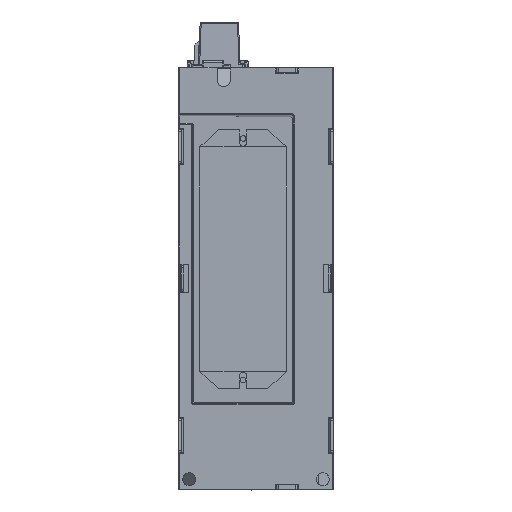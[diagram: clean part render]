
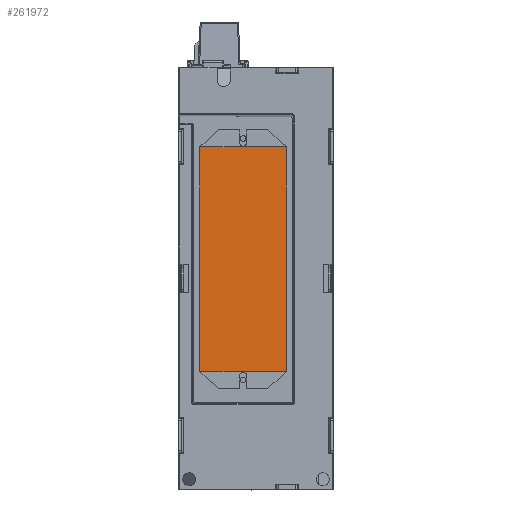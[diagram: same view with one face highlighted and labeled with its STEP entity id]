
A CAD part, front view. The second image highlights one B-rep face of the part: STEP entity #261972.
In plain terms, the highlighted planar face has unit normal (0, -1, 0) as drawn and (0, 1, 0) by its records, which use the part's own axes.
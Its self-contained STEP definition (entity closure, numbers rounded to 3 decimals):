
#261570=DIRECTION('',(0.,0.,1.));
#261571=VECTOR('',#261570,40.);
#261572=CARTESIAN_POINT('',(-52.1,7.6,-20.));
#261573=LINE('',#261572,#261571);
#261577=DIRECTION('',(-1.,0.,0.));
#261578=VECTOR('',#261577,104.2);
#261579=CARTESIAN_POINT('',(52.1,7.6,-20.));
#261580=LINE('',#261579,#261578);
#261584=DIRECTION('',(0.,0.,-1.));
#261585=VECTOR('',#261584,40.);
#261586=CARTESIAN_POINT('',(52.1,7.6,20.));
#261587=LINE('',#261586,#261585);
#261591=DIRECTION('',(1.,0.,0.));
#261592=VECTOR('',#261591,104.2);
#261593=CARTESIAN_POINT('',(-52.1,7.6,20.));
#261594=LINE('',#261593,#261592);
#261647=CARTESIAN_POINT('',(-52.1,7.6,-20.));
#261648=CARTESIAN_POINT('',(-52.1,7.6,20.));
#261649=VERTEX_POINT('',#261647);
#261650=VERTEX_POINT('',#261648);
#261651=CARTESIAN_POINT('',(52.1,7.6,20.));
#261652=VERTEX_POINT('',#261651);
#261653=CARTESIAN_POINT('',(52.1,7.6,-20.));
#261654=VERTEX_POINT('',#261653);
#261959=CARTESIAN_POINT('',(0.,7.6,0.));
#261960=DIRECTION('',(0.,1.,0.));
#261961=DIRECTION('',(1.,0.,0.));
#261962=AXIS2_PLACEMENT_3D('',#261959,#261960,#261961);
#261963=PLANE('',#261962);
#261965=ORIENTED_EDGE('',*,*,#261964,.F.);
#261967=ORIENTED_EDGE('',*,*,#261966,.F.);
#261968=ORIENTED_EDGE('',*,*,#261952,.F.);
#261969=ORIENTED_EDGE('',*,*,#261840,.F.);
#261970=EDGE_LOOP('',(#261965,#261967,#261968,#261969));
#261971=FACE_OUTER_BOUND('',#261970,.F.);
#261840=EDGE_CURVE('',#261650,#261652,#261594,.T.);
#261952=EDGE_CURVE('',#261652,#261654,#261587,.T.);
#261964=EDGE_CURVE('',#261649,#261650,#261573,.T.);
#261966=EDGE_CURVE('',#261654,#261649,#261580,.T.);
#261972=ADVANCED_FACE('',(#261971),#261963,.T.);
